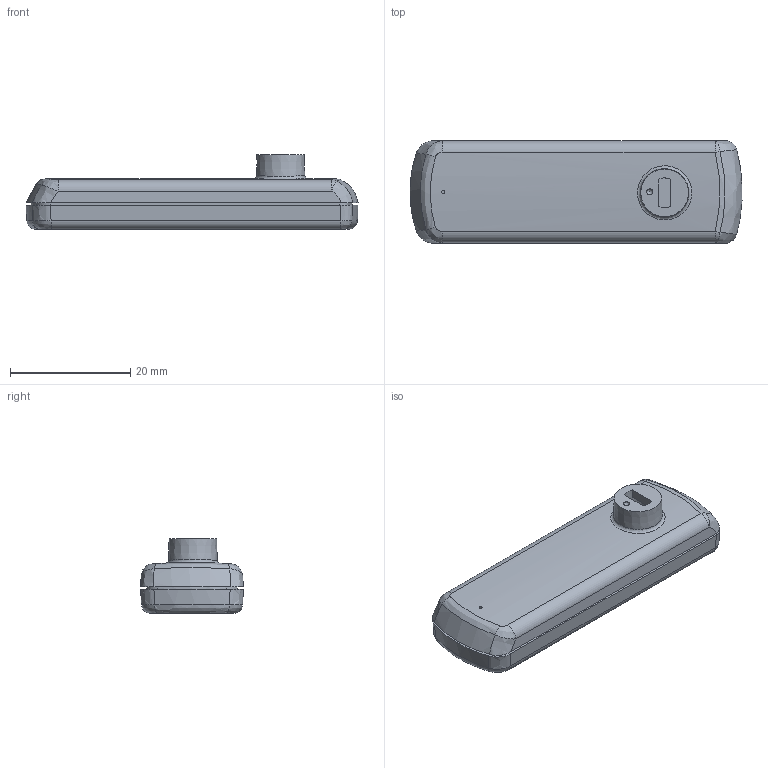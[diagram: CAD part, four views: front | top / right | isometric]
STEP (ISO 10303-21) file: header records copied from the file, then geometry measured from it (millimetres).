
FILE_DESCRIPTION(/* description */ (''),/* implementation_level */ '2;1');
FILE_NAME(/* name */ '蓝牙CP2.step',/* time_stamp */ '2019-04-23T14:05:02+08:00',/* author */ (''),/* organization */ (''),/* preprocessor_version */ 'ST-DEVELOPER v16',/* originating_system */ 'SIEMENS PLM Software NX 10.0',/* authorisation */ '');
FILE_SCHEMA (('AUTOMOTIVE_DESIGN { 1 0 10303 214 3 1 1 1 }'));
Length unit declared in the file: millimetre
Products named in the file (3): 蓝牙CP1_id6_x_t; 蓝牙CP1_id11_x_t; 蓝牙CP1_x_t
Assembly tree (2 placements, depth 2):
  蓝牙CP1_x_t
    蓝牙CP1_id11_x_t
    蓝牙CP1_id6_x_t
Bounding box: 55.24 x 17.1 x 12.42 mm (x, y, z)
Volume: 3612.6 mm3; surface area: 5412.8 mm2
Topology: 2 solids, 2 shells, 170 faces, 450 edges, 296 vertices
Faces by surface type: plane 67, bspline 43, cylinder 37, extrusion 8, cone 8, sphere 6, torus 1
Full cylindrical faces by diameter (mm): 1.507 x2, 1.508 x2, 3.517 x2
Entity records: 7226 total; most frequent: CARTESIAN_POINT 3427, ORIENTED_EDGE 844, DIRECTION 630, EDGE_CURVE 422, VERTEX_POINT 283, AXIS2_PLACEMENT_3D 222, EDGE_LOOP 201, VECTOR 186
